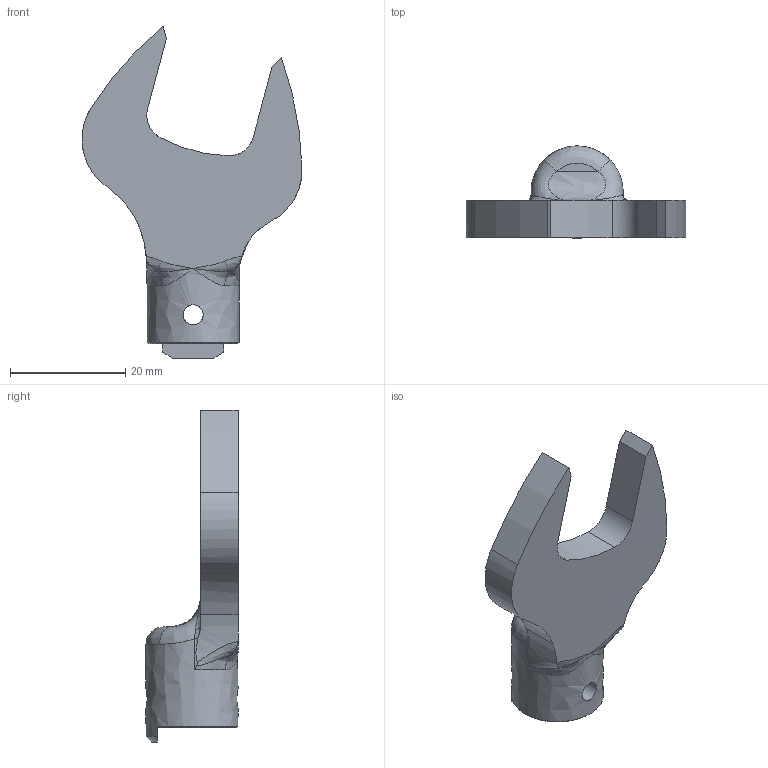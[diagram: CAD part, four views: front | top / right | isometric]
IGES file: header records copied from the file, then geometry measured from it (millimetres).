
Global section: file name: SH10DX19; native system: Autodesk Inventor 2016; preprocessor: unknown; author: Q600; date: 20151029.185352; units: millimetre
Bounding box: 38.21 x 16 x 57.67 mm (x, y, z)
Volume: 7451.9 mm3; surface area: 4232.9 mm2
Topology: 1 solids, 1 shells, 53 faces, 153 edges, 95 vertices
Faces by surface type: bspline 53
